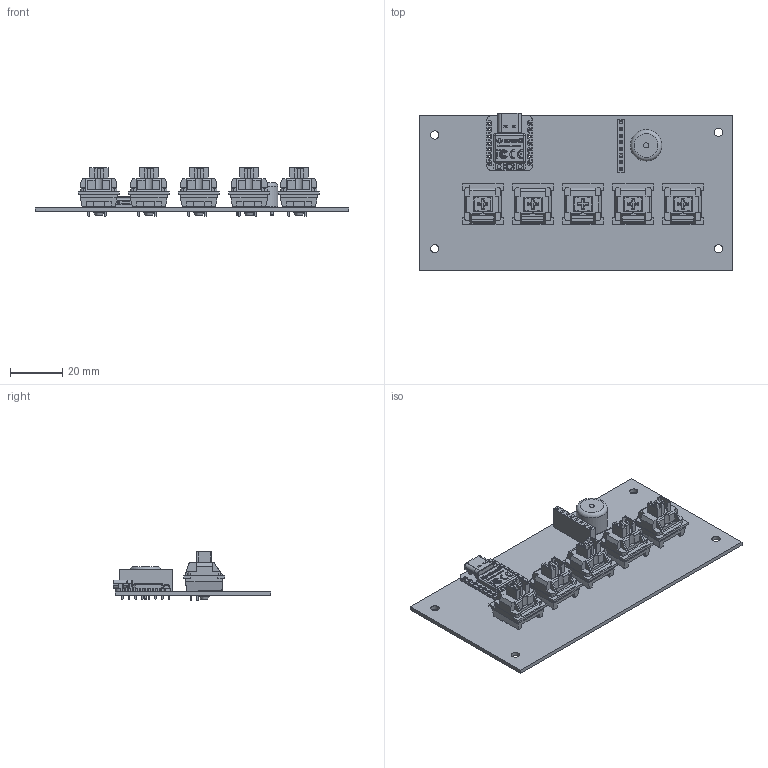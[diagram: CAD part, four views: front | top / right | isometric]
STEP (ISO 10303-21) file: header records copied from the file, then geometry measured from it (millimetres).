
FILE_DESCRIPTION(('KiCad electronic assembly'),'2;1');
FILE_NAME('KiCad.step','2026-09-21T18:22:04',('Pcbnew'),('Kicad'), 'Open CASCADE STEP processor 7.9','KiCad to STEP converter','Unknown' );
FILE_SCHEMA(('AUTOMOTIVE_DESIGN { 1 0 10303 214 1 1 1 1 }'));
Length unit declared in the file: millimetre
Products named in the file (25): KiCad 1; REDragon-MX-ZT02; Body; Button; Pins; Seeed Studio XIAO RP2040 v26; main; type-c v2; smd_button v3; SK6805-2.4x2.7 v1; Shell; DOUT; DIN; VSS; VDD; smd_button v3(Mirror); COMPOUND; Buzzer_12x9.5RM7.6; Buzzer_12x95RM76; PinSocket_1x08_P2.54mm_Vertical; KiC4B2E_PCB
Assembly tree (28 placements, depth 6):
  KiCad 1
    REDragon-MX-ZT02  x5
      REDragon-MX-ZT02
        Body
        Button
        Pins
    Seeed Studio XIAO RP2040 v26
      Seeed Studio XIAO RP2040 v26
        main
          type-c v2
          smd_button v3
          SK6805-2.4x2.7 v1
            Shell
            DOUT
            DIN
            VSS
            VDD
          smd_button v3(Mirror)
          COMPOUND
        COMPOUND
    Buzzer_12x9.5RM7.6
      Buzzer_12x95RM76
    PinSocket_1x08_P2.54mm_Vertical
      PinSocket_1x08_P2.54mm_Vertical
    KiC4B2E_PCB
Bounding box: 120 x 60.38 x 18.7 mm (x, y, z)
Volume: 21569.4 mm3; surface area: 25851 mm2
Topology: 106 solids, 106 shells, 2377 faces, 6128 edges, 4008 vertices
Faces by surface type: plane 1858, cylinder 287, bspline 195, torus 16, cone 11, sphere 10
Full cylindrical faces by diameter (mm): 0.4 x1, 0.5 x2, 0.8 x14, 0.889 x14, 0.9 x2, 1 x20, 1.5 x12, 1.7 x10, 2 x2, 3.2 x4, 3.8 x5, 4 x5, 12 x1
Entity records: 58020 total; most frequent: CARTESIAN_POINT 11504, ORIENTED_EDGE 8648, DIRECTION 7512, EDGE_CURVE 4324, LINE 3410, VECTOR 3410, VERTEX_POINT 2832, AXIS2_PLACEMENT_3D 2051
